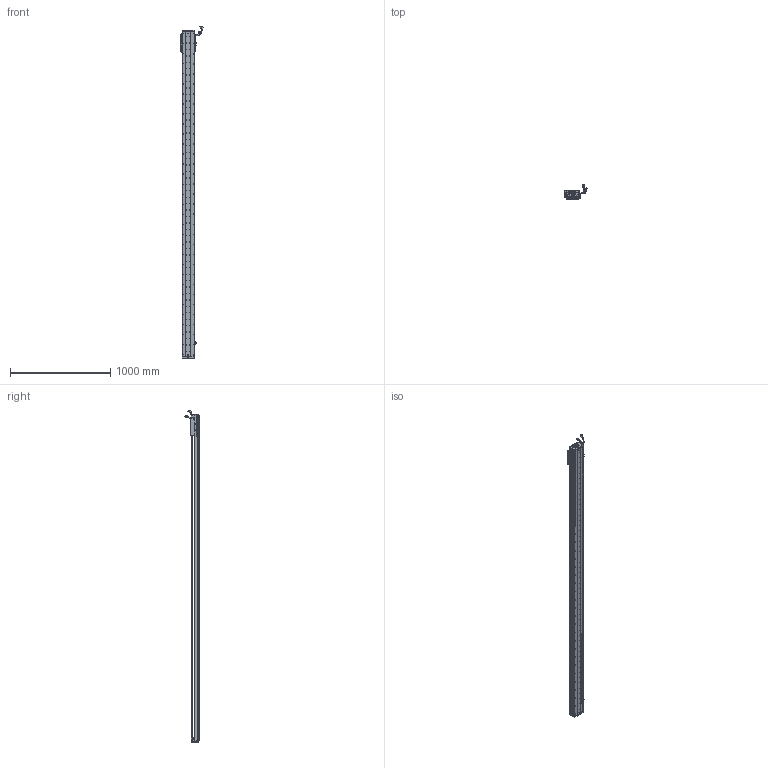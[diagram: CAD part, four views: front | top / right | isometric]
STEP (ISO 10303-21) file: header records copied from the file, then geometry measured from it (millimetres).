
FILE_DESCRIPTION (( 'STEP AP203' ), '1' );
FILE_NAME ('Z2-RY120D-1-L500-B-K.SLDASM_3000.step', '2021-05-17T05:41:02', ( '盈信电脑' ), ( '东莞市道滘镇水果街19号' ), 'SwSTEP 2.0', 'SolidWorks 2016', '' );
FILE_SCHEMA (( 'CONFIG_CONTROL_DESIGN' ));
Length unit declared in the file: millimetre
Products named in the file (37): HARNESS-Part-2; HOLDER0; SEAL; Z2-RY120铝滑块（21款）; SCREW-M1.7; COVER-Part-1; SCREW-M1.6-2; SCREW-M1.7-1; SCREW-M1.6-3; HARNESS-Part-1; Z-120詩湍傷裔啣; SEAL-Part-1; 120-Z-臏賑輸盄裔(21遴); SCALE-Part-1; LABEL-Part-1; 覜茼ん672; PSLH080_PSLF2; SCREW-M1.6; LABEL; Z2-RY120D-1-L500-B-K.SLDASM_3000; Z-RY120D詩湍奻揤裔; SHIELDPLATE; 榋妏寠巭燃_暯_M2_2; HARNESS; Z2-RY120-500-倰第菁釱_3000; Z2-RY120-L500詩湍100mm遵_3000; SCALE-Part-2; SCREW-M1.6-1; SCALE; RY100FB-遵嫖萇覜茼え; 080黍杅芛假蚾釱21遴; Z-RY120D詩湍狟揤裔; 140蚥薯蝶輸; COVER; PBU_SHEET; 672嫖萇羲壽假蚾釱; 140雄赽晤鎢ん堤盄
Assembly tree (43 placements, depth 4):
  Z2-RY120D-1-L500-B-K.SLDASM_3000
    Z2-RY120-500-倰第菁釱_3000
    覜茼ん672  x3
    672嫖萇羲壽假蚾釱  x2
    Z2-RY120铝滑块（21款）
    PSLH080_PSLF2
      SCALE
        SCALE-Part-1
        SCALE-Part-2
      HARNESS
        HARNESS-Part-1
        HARNESS-Part-2
      LABEL
        LABEL-Part-1
      COVER
        COVER-Part-1
      SEAL
        SEAL-Part-1
      榋妏寠巭燃_暯_M2_2
      SHIELDPLATE
      SCREW-M1.7
      SCREW-M1.7-1
      PBU_SHEET
      SCREW-M1.6
      SCREW-M1.6-1
      SCREW-M1.6-2
      SCREW-M1.6-3
      HOLDER0
    080黍杅芛假蚾釱21遴
    120-Z-臏賑輸盄裔(21遴)
    140雄赽晤鎢ん堤盄
    140蚥薯蝶輸  x2
    RY100FB-遵嫖萇覜茼え
    Z-120詩湍傷裔啣  x2
    Z-RY120D詩湍奻揤裔  x2
    Z-RY120D詩湍狟揤裔  x2
    Z2-RY120-L500詩湍100mm遵_3000
Bounding box: 222.83 x 140.94 x 3308.99 mm (x, y, z)
Volume: 7395518.3 mm3; surface area: 2634689.7 mm2
Topology: 38 solids, 38 shells, 4041 faces, 11688 edges, 7379 vertices
Faces by surface type: cylinder 2198, plane 1303, cone 418, torus 69, bspline 53
Entity records: 140028 total; most frequent: CARTESIAN_POINT 44450, ORIENTED_EDGE 20068, DIRECTION 18008, EDGE_CURVE 10034, AXIS2_PLACEMENT_3D 6672, VERTEX_POINT 6499, VECTOR 4664, LINE 4664
